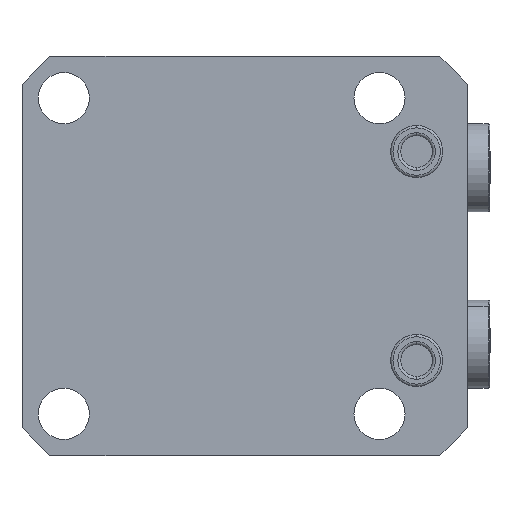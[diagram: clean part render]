
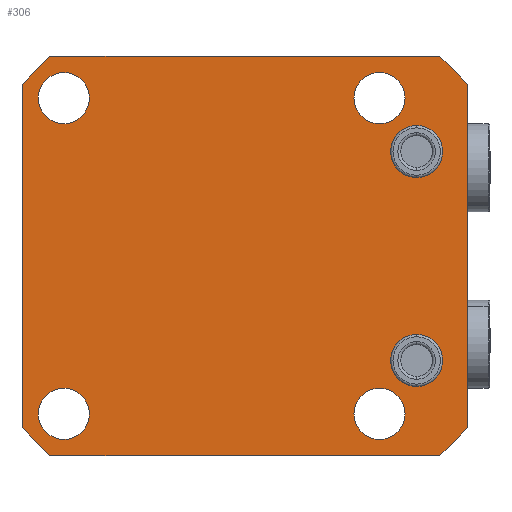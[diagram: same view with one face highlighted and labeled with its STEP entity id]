
A CAD part, front view. The second image highlights one B-rep face of the part: STEP entity #306.
In plain terms, the highlighted planar face has unit normal (0, -1, 0).
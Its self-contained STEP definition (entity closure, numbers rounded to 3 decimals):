
#176=PLANE('',#2241);
#226=FACE_BOUND('',#587,.T.);
#227=FACE_BOUND('',#588,.T.);
#228=FACE_BOUND('',#589,.T.);
#229=FACE_BOUND('',#590,.T.);
#230=FACE_BOUND('',#591,.T.);
#231=FACE_BOUND('',#592,.T.);
#232=FACE_BOUND('',#593,.T.);
#306=ADVANCED_FACE('',(#226,#227,#228,#229,#230,#231,#232),#176,.F.);
#587=EDGE_LOOP('',(#945,#946,#947,#948,#949,#950,#951,#952));
#588=EDGE_LOOP('',(#953,#954));
#589=EDGE_LOOP('',(#955,#956));
#590=EDGE_LOOP('',(#957,#958));
#591=EDGE_LOOP('',(#959,#960));
#592=EDGE_LOOP('',(#961,#962));
#593=EDGE_LOOP('',(#963,#964));
#738=CIRCLE('',#2196,5.6);
#754=CIRCLE('',#2217,5.6);
#755=CIRCLE('',#2219,5.5);
#757=CIRCLE('',#2222,5.5);
#759=CIRCLE('',#2225,5.5);
#761=CIRCLE('',#2228,5.5);
#765=CIRCLE('',#2235,5.5);
#766=CIRCLE('',#2236,5.5);
#767=CIRCLE('',#2237,5.5);
#768=CIRCLE('',#2238,5.5);
#769=CIRCLE('',#2239,5.6);
#770=CIRCLE('',#2240,5.6);
#945=ORIENTED_EDGE('',*,*,#1706,.F.);
#946=ORIENTED_EDGE('',*,*,#1707,.T.);
#947=ORIENTED_EDGE('',*,*,#1708,.F.);
#948=ORIENTED_EDGE('',*,*,#1709,.T.);
#949=ORIENTED_EDGE('',*,*,#1710,.F.);
#950=ORIENTED_EDGE('',*,*,#1711,.T.);
#951=ORIENTED_EDGE('',*,*,#1629,.F.);
#952=ORIENTED_EDGE('',*,*,#1712,.T.);
#953=ORIENTED_EDGE('',*,*,#1686,.F.);
#954=ORIENTED_EDGE('',*,*,#1713,.F.);
#955=ORIENTED_EDGE('',*,*,#1682,.F.);
#956=ORIENTED_EDGE('',*,*,#1714,.F.);
#957=ORIENTED_EDGE('',*,*,#1678,.F.);
#958=ORIENTED_EDGE('',*,*,#1715,.F.);
#959=ORIENTED_EDGE('',*,*,#1674,.F.);
#960=ORIENTED_EDGE('',*,*,#1716,.F.);
#961=ORIENTED_EDGE('',*,*,#1717,.F.);
#962=ORIENTED_EDGE('',*,*,#1672,.F.);
#963=ORIENTED_EDGE('',*,*,#1652,.T.);
#964=ORIENTED_EDGE('',*,*,#1718,.T.);
#1439=VERTEX_POINT('',#3104);
#1440=VERTEX_POINT('',#3106);
#1457=VERTEX_POINT('',#3151);
#1458=VERTEX_POINT('',#3153);
#1471=VERTEX_POINT('',#3190);
#1472=VERTEX_POINT('',#3192);
#1473=VERTEX_POINT('',#3196);
#1474=VERTEX_POINT('',#3197);
#1477=VERTEX_POINT('',#3205);
#1478=VERTEX_POINT('',#3206);
#1481=VERTEX_POINT('',#3214);
#1482=VERTEX_POINT('',#3215);
#1485=VERTEX_POINT('',#3223);
#1486=VERTEX_POINT('',#3224);
#1505=VERTEX_POINT('',#3303);
#1506=VERTEX_POINT('',#3304);
#1507=VERTEX_POINT('',#3306);
#1508=VERTEX_POINT('',#3308);
#1509=VERTEX_POINT('',#3310);
#1510=VERTEX_POINT('',#3312);
#1629=EDGE_CURVE('',#1439,#1440,#1911,.T.);
#1652=EDGE_CURVE('',#1458,#1457,#738,.T.);
#1672=EDGE_CURVE('',#1471,#1472,#754,.T.);
#1674=EDGE_CURVE('',#1473,#1474,#755,.T.);
#1678=EDGE_CURVE('',#1477,#1478,#757,.T.);
#1682=EDGE_CURVE('',#1481,#1482,#759,.T.);
#1686=EDGE_CURVE('',#1485,#1486,#761,.T.);
#1706=EDGE_CURVE('',#1505,#1506,#1935,.T.);
#1707=EDGE_CURVE('',#1505,#1507,#1936,.T.);
#1708=EDGE_CURVE('',#1508,#1507,#1937,.T.);
#1709=EDGE_CURVE('',#1508,#1509,#1938,.T.);
#1710=EDGE_CURVE('',#1510,#1509,#1939,.T.);
#1711=EDGE_CURVE('',#1510,#1440,#1940,.T.);
#1712=EDGE_CURVE('',#1439,#1506,#1941,.T.);
#1713=EDGE_CURVE('',#1486,#1485,#765,.T.);
#1714=EDGE_CURVE('',#1482,#1481,#766,.T.);
#1715=EDGE_CURVE('',#1478,#1477,#767,.T.);
#1716=EDGE_CURVE('',#1474,#1473,#768,.T.);
#1717=EDGE_CURVE('',#1472,#1471,#769,.T.);
#1718=EDGE_CURVE('',#1457,#1458,#770,.T.);
#1911=LINE('',#3105,#2036);
#1935=LINE('',#3302,#2060);
#1936=LINE('',#3305,#2061);
#1937=LINE('',#3307,#2062);
#1938=LINE('',#3309,#2063);
#1939=LINE('',#3311,#2064);
#1940=LINE('',#3313,#2065);
#1941=LINE('',#3314,#2066);
#2036=VECTOR('',#2455,1.);
#2060=VECTOR('',#2601,1.);
#2061=VECTOR('',#2602,1.);
#2062=VECTOR('',#2603,1.);
#2063=VECTOR('',#2604,1.);
#2064=VECTOR('',#2605,1.);
#2065=VECTOR('',#2606,1.);
#2066=VECTOR('',#2607,1.);
#2196=AXIS2_PLACEMENT_3D('',#3152,#2506,#2507);
#2217=AXIS2_PLACEMENT_3D('',#3191,#2552,#2553);
#2219=AXIS2_PLACEMENT_3D('',#3195,#2557,#2558);
#2222=AXIS2_PLACEMENT_3D('',#3204,#2565,#2566);
#2225=AXIS2_PLACEMENT_3D('',#3213,#2573,#2574);
#2228=AXIS2_PLACEMENT_3D('',#3222,#2581,#2582);
#2235=AXIS2_PLACEMENT_3D('',#3315,#2608,#2609);
#2236=AXIS2_PLACEMENT_3D('',#3316,#2610,#2611);
#2237=AXIS2_PLACEMENT_3D('',#3317,#2612,#2613);
#2238=AXIS2_PLACEMENT_3D('',#3318,#2614,#2615);
#2239=AXIS2_PLACEMENT_3D('',#3319,#2616,#2617);
#2240=AXIS2_PLACEMENT_3D('',#3320,#2618,#2619);
#2241=AXIS2_PLACEMENT_3D('',#3321,#2620,#2621);
#2455=DIRECTION('',(0.,0.,-1.));
#2506=DIRECTION('',(0.,1.,0.));
#2507=DIRECTION('',(0.,0.,1.));
#2552=DIRECTION('',(0.,-1.,0.));
#2553=DIRECTION('',(0.,0.,-1.));
#2557=DIRECTION('',(0.,-1.,0.));
#2558=DIRECTION('',(0.,0.,1.));
#2565=DIRECTION('',(0.,-1.,0.));
#2566=DIRECTION('',(0.,0.,1.));
#2573=DIRECTION('',(0.,-1.,0.));
#2574=DIRECTION('',(0.,0.,1.));
#2581=DIRECTION('',(0.,-1.,0.));
#2582=DIRECTION('',(0.,0.,1.));
#2601=DIRECTION('',(1.,0.,0.));
#2602=DIRECTION('',(-0.707,0.,-0.707));
#2603=DIRECTION('',(0.,0.,1.));
#2604=DIRECTION('',(0.707,0.,-0.707));
#2605=DIRECTION('',(-1.,0.,0.));
#2606=DIRECTION('',(0.707,0.,0.707));
#2607=DIRECTION('',(-0.707,0.,0.707));
#2608=DIRECTION('',(0.,-1.,0.));
#2609=DIRECTION('',(0.,0.,1.));
#2610=DIRECTION('',(0.,-1.,0.));
#2611=DIRECTION('',(0.,0.,1.));
#2612=DIRECTION('',(0.,-1.,0.));
#2613=DIRECTION('',(0.,0.,1.));
#2614=DIRECTION('',(0.,-1.,0.));
#2615=DIRECTION('',(0.,0.,1.));
#2616=DIRECTION('',(0.,-1.,0.));
#2617=DIRECTION('',(0.,0.,-1.));
#2618=DIRECTION('',(0.,1.,0.));
#2619=DIRECTION('',(0.,0.,1.));
#2620=DIRECTION('',(0.,1.,0.));
#2621=DIRECTION('',(0.,0.,-1.));
#3104=CARTESIAN_POINT('',(53.,0.,37.));
#3105=CARTESIAN_POINT('',(53.,0.,-43.));
#3106=CARTESIAN_POINT('',(53.,0.,-37.));
#3151=CARTESIAN_POINT('',(42.,0.,28.1));
#3152=CARTESIAN_POINT('',(42.,0.,22.5));
#3153=CARTESIAN_POINT('',(42.,0.,16.9));
#3190=CARTESIAN_POINT('',(42.,0.,-16.9));
#3191=CARTESIAN_POINT('',(42.,0.,-22.5));
#3192=CARTESIAN_POINT('',(42.,0.,-28.1));
#3195=CARTESIAN_POINT('',(-34.,0.,34.));
#3196=CARTESIAN_POINT('',(-34.,0.,39.5));
#3197=CARTESIAN_POINT('',(-34.,0.,28.5));
#3204=CARTESIAN_POINT('',(34.,0.,34.));
#3205=CARTESIAN_POINT('',(34.,0.,39.5));
#3206=CARTESIAN_POINT('',(34.,0.,28.5));
#3213=CARTESIAN_POINT('',(-34.,0.,-34.));
#3214=CARTESIAN_POINT('',(-34.,0.,-28.5));
#3215=CARTESIAN_POINT('',(-34.,0.,-39.5));
#3222=CARTESIAN_POINT('',(34.,0.,-34.));
#3223=CARTESIAN_POINT('',(34.,0.,-28.5));
#3224=CARTESIAN_POINT('',(34.,0.,-39.5));
#3302=CARTESIAN_POINT('',(-43.,0.,43.));
#3303=CARTESIAN_POINT('',(-37.,0.,43.));
#3304=CARTESIAN_POINT('',(47.,0.,43.));
#3305=CARTESIAN_POINT('',(-37.,0.,43.));
#3306=CARTESIAN_POINT('',(-43.,0.,37.));
#3307=CARTESIAN_POINT('',(-43.,0.,-43.));
#3308=CARTESIAN_POINT('',(-43.,0.,-37.));
#3309=CARTESIAN_POINT('',(-43.,0.,-37.));
#3310=CARTESIAN_POINT('',(-37.,0.,-43.));
#3311=CARTESIAN_POINT('',(-43.,0.,-43.));
#3312=CARTESIAN_POINT('',(47.,0.,-43.));
#3313=CARTESIAN_POINT('',(47.,0.,-43.));
#3314=CARTESIAN_POINT('',(53.,0.,37.));
#3315=CARTESIAN_POINT('',(34.,0.,-34.));
#3316=CARTESIAN_POINT('',(-34.,0.,-34.));
#3317=CARTESIAN_POINT('',(34.,0.,34.));
#3318=CARTESIAN_POINT('',(-34.,0.,34.));
#3319=CARTESIAN_POINT('',(42.,0.,-22.5));
#3320=CARTESIAN_POINT('',(42.,0.,22.5));
#3321=CARTESIAN_POINT('',(-43.,0.,43.));
